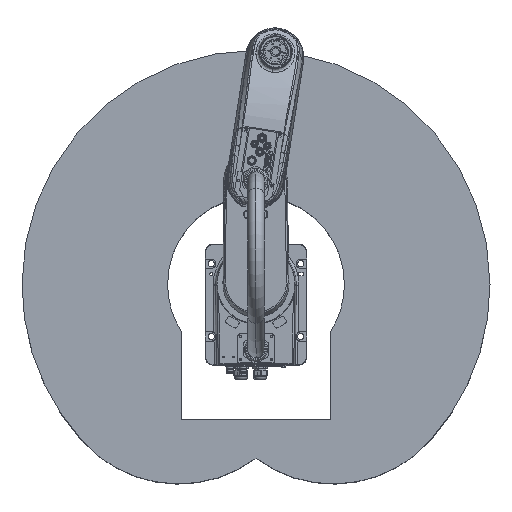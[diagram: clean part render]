
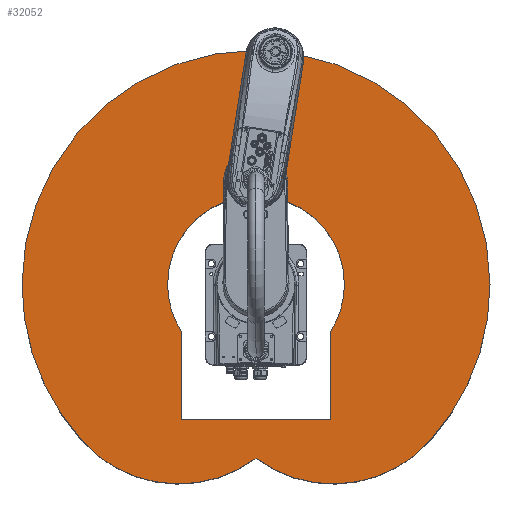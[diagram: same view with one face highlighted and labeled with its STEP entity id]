
A CAD part, top view. The second image highlights one B-rep face of the part: STEP entity #32052.
In plain terms, the highlighted planar face has unit normal (0, 0, 1).
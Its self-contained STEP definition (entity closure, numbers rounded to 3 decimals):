
#209 = CARTESIAN_POINT ( 'NONE',  ( 0., -260., 240. ) ) ;
#978 = CARTESIAN_POINT ( 'NONE',  ( 0., -334.847, 240. ) ) ;
#3291 = CARTESIAN_POINT ( 'NONE',  ( -148.629, -133.826, 240. ) ) ;
#5461 = LINE ( 'NONE', #22097, #70466 ) ;
#6069 = EDGE_LOOP ( 'NONE', ( #28885, #22670, #80512, #69177, #82660, #8720 ) ) ;
#6322 = ORIENTED_EDGE ( 'NONE', *, *, #18659, .T. ) ;
#6831 = CARTESIAN_POINT ( 'NONE',  ( 0., 0., 240. ) ) ;
#7757 = DIRECTION ( 'NONE',  ( -1., 0., 0. ) ) ;
#8051 = EDGE_CURVE ( 'NONE', #42519, #69359, #41564, .T. ) ;
#8720 = ORIENTED_EDGE ( 'NONE', *, *, #27793, .F. ) ;
#8765 = CIRCLE ( 'NONE', #82493, 450. ) ;
#8889 = CARTESIAN_POINT ( 'NONE',  ( -170., 0., 240. ) ) ;
#11052 = DIRECTION ( 'NONE',  ( 0., 0., 1. ) ) ;
#11612 = CARTESIAN_POINT ( 'NONE',  ( -334.415, -301.109, 240. ) ) ;
#12969 = DIRECTION ( 'NONE',  ( 1., 0., 0. ) ) ;
#14646 = CARTESIAN_POINT ( 'NONE',  ( 0., 0., 240. ) ) ;
#14865 = CARTESIAN_POINT ( 'NONE',  ( 0., 0., 240. ) ) ;
#16086 = VERTEX_POINT ( 'NONE', #28841 ) ;
#16444 = CIRCLE ( 'NONE', #103854, 170. ) ;
#18119 = LINE ( 'NONE', #44406, #52182 ) ;
#18659 = EDGE_CURVE ( 'NONE', #32187, #66072, #25231, .T. ) ;
#18766 = CARTESIAN_POINT ( 'NONE',  ( 0., 0., 240. ) ) ;
#22097 = CARTESIAN_POINT ( 'NONE',  ( -143.5, 0., 240. ) ) ;
#22670 = ORIENTED_EDGE ( 'NONE', *, *, #89413, .F. ) ;
#23792 = AXIS2_PLACEMENT_3D ( 'NONE', #3291, #43608, #12969 ) ;
#25231 = CIRCLE ( 'NONE', #51006, 450. ) ;
#27453 = EDGE_CURVE ( 'NONE', #66072, #57336, #49579, .T. ) ;
#27602 = AXIS2_PLACEMENT_3D ( 'NONE', #14865, #62705, #29345 ) ;
#27793 = EDGE_CURVE ( 'NONE', #30838, #54799, #54720, .T. ) ;
#28841 = CARTESIAN_POINT ( 'NONE',  ( 334.415, -301.109, 240. ) ) ;
#28885 = ORIENTED_EDGE ( 'NONE', *, *, #56750, .F. ) ;
#29087 = VERTEX_POINT ( 'NONE', #86697 ) ;
#29345 = DIRECTION ( 'NONE',  ( 1., 0., 0. ) ) ;
#30838 = VERTEX_POINT ( 'NONE', #77775 ) ;
#32052 = ADVANCED_FACE ( 'NONE', ( #96988, #54097 ), #104464, .T. ) ;
#32187 = VERTEX_POINT ( 'NONE', #49730 ) ;
#32584 = DIRECTION ( 'NONE',  ( 1., 0., 0. ) ) ;
#34211 = EDGE_CURVE ( 'NONE', #16086, #29087, #8765, .T. ) ;
#34552 = CARTESIAN_POINT ( 'NONE',  ( 0., 0., 240. ) ) ;
#40875 = AXIS2_PLACEMENT_3D ( 'NONE', #14646, #72082, #88170 ) ;
#41564 = LINE ( 'NONE', #209, #104281 ) ;
#41727 = CARTESIAN_POINT ( 'NONE',  ( 0., 0., 240. ) ) ;
#41963 = DIRECTION ( 'NONE',  ( 0., 0., -1. ) ) ;
#42519 = VERTEX_POINT ( 'NONE', #43555 ) ;
#43173 = DIRECTION ( 'NONE',  ( 1., 0., 0. ) ) ;
#43555 = CARTESIAN_POINT ( 'NONE',  ( 143.5, -260., 240. ) ) ;
#43608 = DIRECTION ( 'NONE',  ( 0., 0., 1. ) ) ;
#44406 = CARTESIAN_POINT ( 'NONE',  ( 143.5, 0., 240. ) ) ;
#45759 = CARTESIAN_POINT ( 'NONE',  ( 143.5, -91.147, 240. ) ) ;
#45955 = AXIS2_PLACEMENT_3D ( 'NONE', #65632, #41963, #74743 ) ;
#49158 = VERTEX_POINT ( 'NONE', #98881 ) ;
#49510 = AXIS2_PLACEMENT_3D ( 'NONE', #18766, #61188, #101921 ) ;
#49579 = CIRCLE ( 'NONE', #23792, 250. ) ;
#49730 = CARTESIAN_POINT ( 'NONE',  ( -450., 0., 240. ) ) ;
#51006 = AXIS2_PLACEMENT_3D ( 'NONE', #58884, #11052, #68016 ) ;
#52182 = VECTOR ( 'NONE', #92709, 1000. ) ;
#52422 = ORIENTED_EDGE ( 'NONE', *, *, #34211, .T. ) ;
#52827 = CIRCLE ( 'NONE', #40875, 450. ) ;
#54097 = FACE_BOUND ( 'NONE', #6069, .T. ) ;
#54720 = CIRCLE ( 'NONE', #49510, 170. ) ;
#54799 = VERTEX_POINT ( 'NONE', #8889 ) ;
#55883 = CIRCLE ( 'NONE', #69612, 170. ) ;
#56750 = EDGE_CURVE ( 'NONE', #86784, #30838, #55883, .T. ) ;
#57336 = VERTEX_POINT ( 'NONE', #978 ) ;
#58008 = CIRCLE ( 'NONE', #45955, 250. ) ;
#58884 = CARTESIAN_POINT ( 'NONE',  ( 0., 0., 240. ) ) ;
#61188 = DIRECTION ( 'NONE',  ( 0., 0., 1. ) ) ;
#62705 = DIRECTION ( 'NONE',  ( 0., 0., 1. ) ) ;
#64315 = DIRECTION ( 'NONE',  ( 0., 0., 1. ) ) ;
#65632 = CARTESIAN_POINT ( 'NONE',  ( 148.629, -133.826, 240. ) ) ;
#66072 = VERTEX_POINT ( 'NONE', #11612 ) ;
#67302 = EDGE_CURVE ( 'NONE', #16086, #57336, #58008, .T. ) ;
#67367 = DIRECTION ( 'NONE',  ( 0., 0., 1. ) ) ;
#67996 = EDGE_CURVE ( 'NONE', #29087, #32187, #52827, .T. ) ;
#68016 = DIRECTION ( 'NONE',  ( 1., 0., 0. ) ) ;
#69177 = ORIENTED_EDGE ( 'NONE', *, *, #86803, .T. ) ;
#69359 = VERTEX_POINT ( 'NONE', #92979 ) ;
#69612 = AXIS2_PLACEMENT_3D ( 'NONE', #34552, #67367, #43173 ) ;
#69752 = EDGE_LOOP ( 'NONE', ( #85928, #52422, #99643, #6322, #73710 ) ) ;
#70466 = VECTOR ( 'NONE', #80105, 1000. ) ;
#72082 = DIRECTION ( 'NONE',  ( 0., 0., 1. ) ) ;
#73710 = ORIENTED_EDGE ( 'NONE', *, *, #27453, .T. ) ;
#74743 = DIRECTION ( 'NONE',  ( 1., 0., 0. ) ) ;
#77435 = EDGE_CURVE ( 'NONE', #54799, #49158, #16444, .T. ) ;
#77775 = CARTESIAN_POINT ( 'NONE',  ( 170., 0., 240. ) ) ;
#80105 = DIRECTION ( 'NONE',  ( 0., 1., 0. ) ) ;
#80512 = ORIENTED_EDGE ( 'NONE', *, *, #8051, .T. ) ;
#82493 = AXIS2_PLACEMENT_3D ( 'NONE', #6831, #64315, #88961 ) ;
#82660 = ORIENTED_EDGE ( 'NONE', *, *, #77435, .F. ) ;
#85928 = ORIENTED_EDGE ( 'NONE', *, *, #67302, .F. ) ;
#86697 = CARTESIAN_POINT ( 'NONE',  ( 450., 0., 240. ) ) ;
#86784 = VERTEX_POINT ( 'NONE', #45759 ) ;
#86803 = EDGE_CURVE ( 'NONE', #69359, #49158, #5461, .T. ) ;
#88170 = DIRECTION ( 'NONE',  ( 1., 0., 0. ) ) ;
#88961 = DIRECTION ( 'NONE',  ( 1., 0., 0. ) ) ;
#89413 = EDGE_CURVE ( 'NONE', #42519, #86784, #18119, .T. ) ;
#92709 = DIRECTION ( 'NONE',  ( 0., 1., 0. ) ) ;
#92979 = CARTESIAN_POINT ( 'NONE',  ( -143.5, -260., 240. ) ) ;
#96988 = FACE_OUTER_BOUND ( 'NONE', #69752, .T. ) ;
#98630 = DIRECTION ( 'NONE',  ( 0., 0., 1. ) ) ;
#98881 = CARTESIAN_POINT ( 'NONE',  ( -143.5, -91.147, 240. ) ) ;
#99643 = ORIENTED_EDGE ( 'NONE', *, *, #67996, .T. ) ;
#101921 = DIRECTION ( 'NONE',  ( 1., 0., 0. ) ) ;
#103854 = AXIS2_PLACEMENT_3D ( 'NONE', #41727, #98630, #32584 ) ;
#104281 = VECTOR ( 'NONE', #7757, 1000. ) ;
#104464 = PLANE ( 'NONE',  #27602 ) ;
